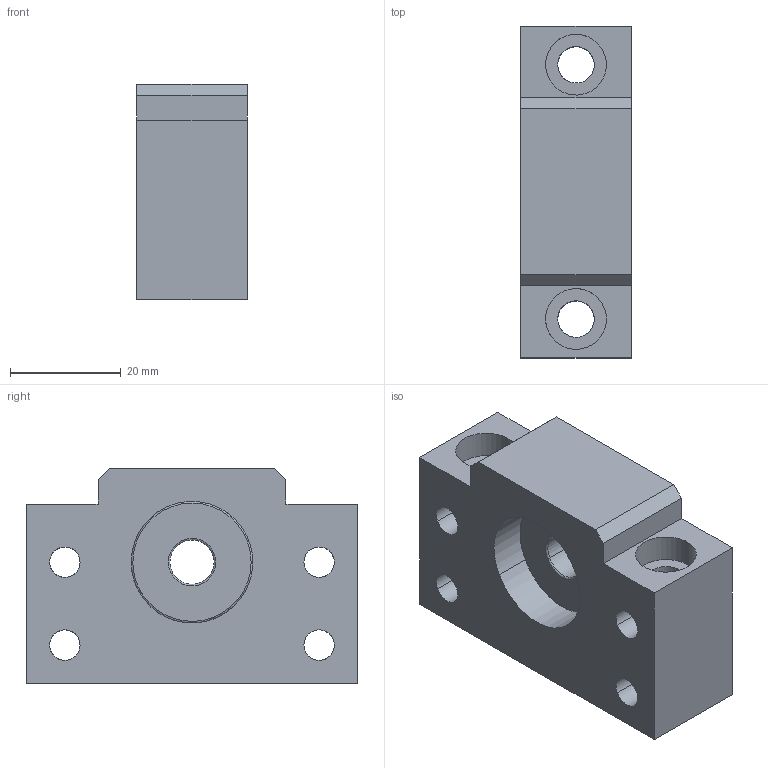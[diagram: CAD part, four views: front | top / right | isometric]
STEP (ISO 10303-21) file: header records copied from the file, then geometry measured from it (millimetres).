
FILE_DESCRIPTION(('CATIA V5 STEP Exchange'),'2;1');
FILE_NAME('D:\서포트 완성도면\BF\BF10.stp','2014-03-26T10:29:44+00:00',('none'),('none'),'CATIA Version 5 Release 18 GA (IN-10)','CATIA V5 STEP AP203','none');
FILE_SCHEMA(('CONFIG_CONTROL_DESIGN'));
Length unit declared in the file: millimetre
Products named in the file (1): BF10
Assembly tree (2 placements, depth 2):
  BF10
    #56
    #2267
Bounding box: 20 x 60 x 39 mm (x, y, z)
Volume: 33876.7 mm3; surface area: 12130.5 mm2
Topology: 2 solids, 2 shells, 58 faces, 172 edges, 112 vertices
Faces by surface type: cylinder 30, plane 16, torus 12
Entity records: 2891 total; most frequent: CARTESIAN_POINT 1394, ORIENTED_EDGE 344, DIRECTION 205, EDGE_CURVE 172, VERTEX_POINT 112, AXIS2_PLACEMENT_3D 85, EDGE_LOOP 76, B_SPLINE_CURVE_WITH_KNOTS 71
